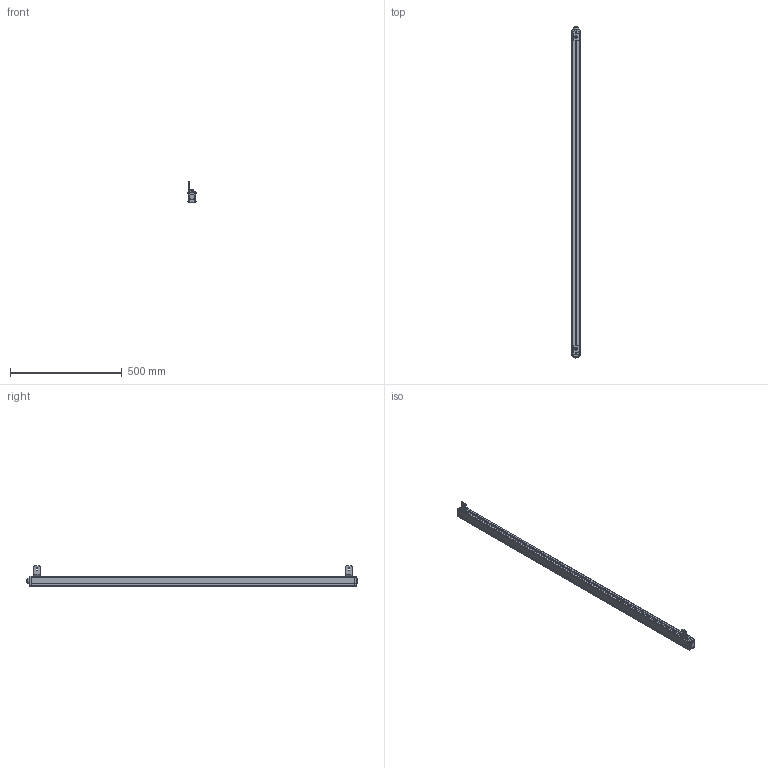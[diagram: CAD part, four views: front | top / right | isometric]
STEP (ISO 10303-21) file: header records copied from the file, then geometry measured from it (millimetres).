
FILE_DESCRIPTION((''),'2;1');
FILE_NAME('ESCL-00_ASM','2021-07-16T15:15:34',('18720616900'),(''),'CREO PARAMETRIC BY PTC INC, 2019010','CREO PARAMETRIC BY PTC INC, 2019010','');
FILE_SCHEMA(('CONFIG_CONTROL_DESIGN'));
Products named in the file (12): ESCL-00; ESCL-3-SOLID1000; ESCL-4-SOLID1000; HKCT1_-4-SOLID1; L10001; M6-8--0001; M6-1--00; M6-1-00; 00; M6-80001_ASM; L1--0001_ASM; ESCL-00_ASM
Assembly tree (12 placements, depth 4):
  ESCL-00_ASM
    ESCL-00
    ESCL-3-SOLID1000
    ESCL-4-SOLID1000
    HKCT1_-4-SOLID1
    L1--0001_ASM  x2
      L10001
      M6-80001_ASM
        M6-8--0001
        M6-1--00
        M6-1-00
        00
Bounding box: 36.1 x 1485.1 x 91.11 mm (x, y, z)
Volume: 2150185.5 mm3; surface area: 309117 mm2
Topology: 14 solids, 14 shells, 627 faces, 1651 edges, 1074 vertices
Faces by surface type: plane 226, cylinder 210, cone 78, bspline 66, torus 47
Entity records: 76249 total; most frequent: CARTESIAN_POINT 64025, ORIENTED_EDGE 2676, DIRECTION 2277, EDGE_CURVE 1338, VERTEX_POINT 876, AXIS2_PLACEMENT_3D 818, VECTOR 641, LINE 641
